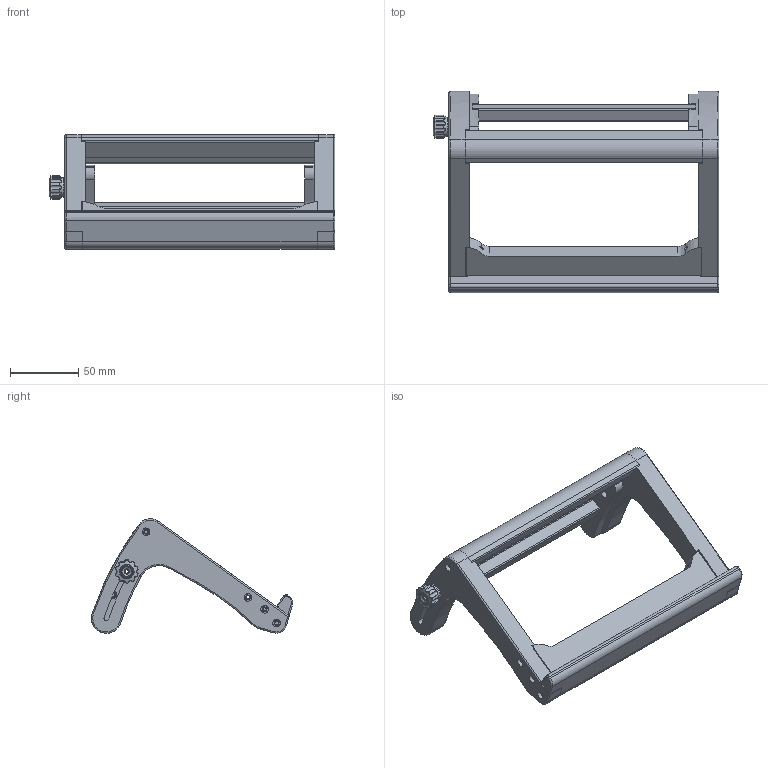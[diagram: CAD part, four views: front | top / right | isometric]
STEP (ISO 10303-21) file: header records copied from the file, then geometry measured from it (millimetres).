
FILE_DESCRIPTION(/* description */ (''),/* implementation_level */ '2;1');
FILE_NAME(/* name */ 'C:/Users/eggysayoga/Desktop/penTabletStand/7-8InchTablet/8Tablet_Stand.step',/* time_stamp */ '2021-02-01T20:15:52+08:00',/* author */ (''),/* organization */ (''),/* preprocessor_version */ 'ST-DEVELOPER v18.1',/* originating_system */ 'Autodesk Translation Framework v9.7.1.1290',/* authorisation */ '');
FILE_SCHEMA (('AUTOMOTIVE_DESIGN { 1 0 10303 214 3 1 1 }'));
Length unit declared in the file: millimetre
Products named in the file (5): tablet8"Stand; Stand; tensionerKnob v3; Knob; TopCap
Assembly tree (4 placements, depth 3):
  tablet8"Stand
    Stand
    tensionerKnob v3
      Knob
      TopCap
Bounding box: 209.5 x 147.61 x 84.05 mm (x, y, z)
Volume: 301799.8 mm3; surface area: 90284.2 mm2
Topology: 10 solids, 10 shells, 498 faces, 1193 edges, 725 vertices
Faces by surface type: plane 227, cylinder 158, sphere 40, bspline 36, torus 33, cone 4
Full cylindrical faces by diameter (mm): 2.6 x12, 3.2 x5, 3.3 x1, 3.4 x6, 5.6 x8, 5.7 x4, 8.4 x1, 8.5 x1, 14 x1
Entity records: 16904 total; most frequent: CARTESIAN_POINT 4996, DIRECTION 2563, ORIENTED_EDGE 2386, EDGE_CURVE 1193, AXIS2_PLACEMENT_3D 976, VERTEX_POINT 725, LINE 611, VECTOR 611
